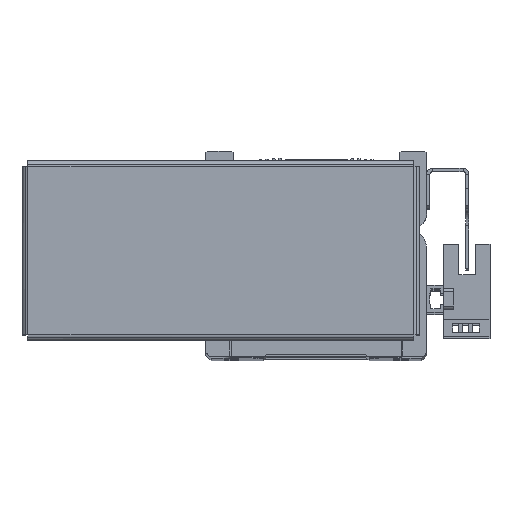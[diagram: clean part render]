
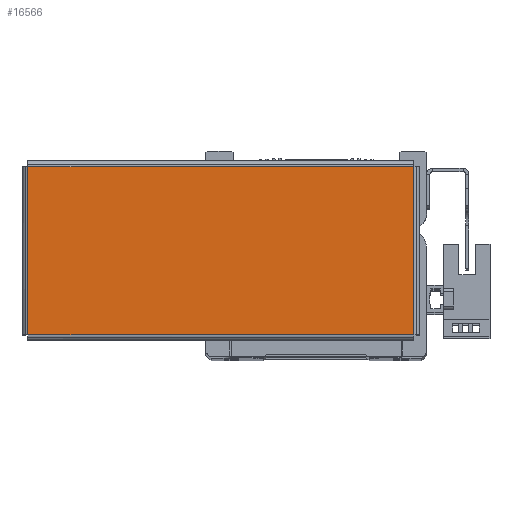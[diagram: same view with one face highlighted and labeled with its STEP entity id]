
A CAD part, top view. The second image highlights one B-rep face of the part: STEP entity #16566.
In plain terms, the highlighted planar face has unit normal (0, 0, 1) as drawn and (0, 0, -1) by its records, which use the part's own axes.
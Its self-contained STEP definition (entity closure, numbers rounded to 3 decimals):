
#3622 = ORIENTED_EDGE ( 'NONE', *, *, #18308, .T. ) ;
#3630 = ORIENTED_EDGE ( 'NONE', *, *, #18290, .T. ) ;
#3680 = ORIENTED_EDGE ( 'NONE', *, *, #18301, .T. ) ;
#3685 = ORIENTED_EDGE ( 'NONE', *, *, #18262, .T. ) ;
#4194 = EDGE_LOOP ( 'NONE', ( #3685, #3680, #3630, #3622 ) ) ;
#4241 = VERTEX_POINT ( 'NONE', #30297 ) ;
#4285 = VERTEX_POINT ( 'NONE', #5082 ) ;
#4293 = VERTEX_POINT ( 'NONE', #5113 ) ;
#4307 = VERTEX_POINT ( 'NONE', #5067 ) ;
#5067 = CARTESIAN_POINT ( 'NONE',  ( 56.863, -24.763, -1. ) ) ;
#5082 = CARTESIAN_POINT ( 'NONE',  ( -56.863, -24.763, -1. ) ) ;
#5113 = CARTESIAN_POINT ( 'NONE',  ( 56.863, 24.763, -1. ) ) ;
#8309 = DIRECTION ( 'NONE',  ( 0., 0., 1. ) ) ;
#8315 = PLANE ( 'NONE',  #35714 ) ;
#8319 = CARTESIAN_POINT ( 'NONE',  ( 0., 0., -1. ) ) ;
#8348 = DIRECTION ( 'NONE',  ( 1., 0., 0. ) ) ;
#9036 = FACE_OUTER_BOUND ( 'NONE', #4194, .T. ) ;
#16566 = ADVANCED_FACE ( 'NONE', ( #9036 ), #8315, .F. ) ;
#18262 = EDGE_CURVE ( 'NONE', #4293, #4307, #25110, .T. ) ;
#18290 = EDGE_CURVE ( 'NONE', #4285, #4241, #25202, .T. ) ;
#18301 = EDGE_CURVE ( 'NONE', #4307, #4285, #25218, .T. ) ;
#18308 = EDGE_CURVE ( 'NONE', #4241, #4293, #25199, .T. ) ;
#25110 = LINE ( 'NONE', #27062, #25147 ) ;
#25147 = VECTOR ( 'NONE', #27066, 1000. ) ;
#25176 = VECTOR ( 'NONE', #27172, 1000. ) ;
#25186 = VECTOR ( 'NONE', #27154, 1000. ) ;
#25199 = LINE ( 'NONE', #27185, #25207 ) ;
#25202 = LINE ( 'NONE', #27153, #25176 ) ;
#25207 = VECTOR ( 'NONE', #27228, 1000. ) ;
#25218 = LINE ( 'NONE', #27180, #25186 ) ;
#27062 = CARTESIAN_POINT ( 'NONE',  ( 56.863, 24.793, -1. ) ) ;
#27066 = DIRECTION ( 'NONE',  ( 0., -1., 0. ) ) ;
#27153 = CARTESIAN_POINT ( 'NONE',  ( -56.863, -24.793, -1. ) ) ;
#27154 = DIRECTION ( 'NONE',  ( -1., 0., 0. ) ) ;
#27172 = DIRECTION ( 'NONE',  ( 0., 1., 0. ) ) ;
#27180 = CARTESIAN_POINT ( 'NONE',  ( 56.893, -24.763, -1. ) ) ;
#27185 = CARTESIAN_POINT ( 'NONE',  ( -56.893, 24.763, -1. ) ) ;
#27228 = DIRECTION ( 'NONE',  ( 1., 0., 0. ) ) ;
#30297 = CARTESIAN_POINT ( 'NONE',  ( -56.863, 24.763, -1. ) ) ;
#35714 = AXIS2_PLACEMENT_3D ( 'NONE', #8319, #8309, #8348 ) ;
